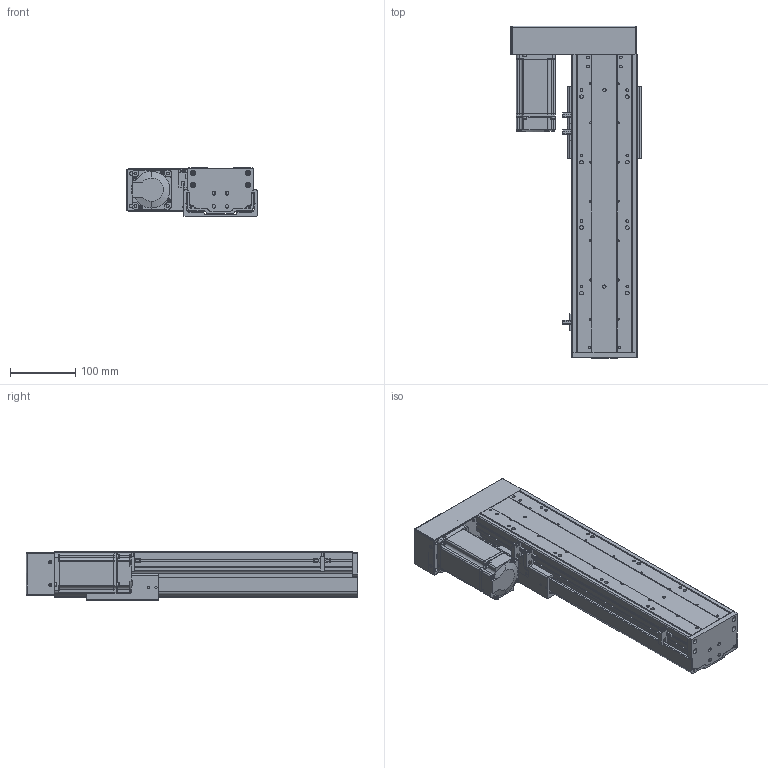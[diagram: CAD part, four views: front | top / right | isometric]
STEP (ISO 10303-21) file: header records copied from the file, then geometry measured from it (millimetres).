
FILE_DESCRIPTION (( 'STEP AP203' ), '1' );
FILE_NAME ('RY100FBS-L1610-300-LK(15双轨）.SLDASM_250.step', '2021-02-23T01:49:09', ( '盈信电脑' ), ( '东莞市道滘镇水果街19号' ), 'SwSTEP 2.0', 'SolidWorks 2012', '' );
FILE_SCHEMA (( 'CONFIG_CONTROL_DESIGN' ));
Length unit declared in the file: millimetre
Products named in the file (14): RY100FBS-L1610-300-LK(15双轨）.SLDASM_250; RY100FBS-酘衵殏萇儂欶; RY100FBS-后盖板(15双轨）; RY100FBS-酘衵殏萇儂啣; 侂狟400W侜督萇儂; 15; RY100FBS-铝滑块（16丝杆）; RY100FBS-嫖萇覜茼え; 覜茼ん672; 滅袉蝶18-24; 滅袉蝶18-15; RY100FBS-转折支撑座（15双轨）; RY100FBS-300蛌殏奻裔啣-LK_250; RY100FBS-300蛌殏菁釱-LK_250
Assembly tree (15 placements, depth 3):
  RY100FBS-L1610-300-LK(15双轨）.SLDASM_250
    RY100FBS-300蛌殏菁釱-LK_250
    RY100FBS-300蛌殏奻裔啣-LK_250
    RY100FBS-转折支撑座（15双轨）
    滅袉蝶18-24
    滅袉蝶18-15
    RY100FBS-铝滑块（16丝杆）
    覜茼ん672  x3
    RY100FBS-嫖萇覜茼え
    侂狟400W侜督萇儂
      15
    RY100FBS-后盖板(15双轨）
    RY100FBS-酘衵殏萇儂啣
    RY100FBS-酘衵殏萇儂欶
Bounding box: 198.75 x 507 x 74 mm (x, y, z)
Volume: 1764227.7 mm3; surface area: 617906.7 mm2
Topology: 14 solids, 14 shells, 1537 faces, 4304 edges, 2786 vertices
Faces by surface type: cylinder 705, plane 680, cone 126, bspline 26
Entity records: 47751 total; most frequent: CARTESIAN_POINT 10142, DIRECTION 7639, ORIENTED_EDGE 7484, EDGE_CURVE 3742, AXIS2_PLACEMENT_3D 2735, VERTEX_POINT 2466, VECTOR 2169, LINE 2169
